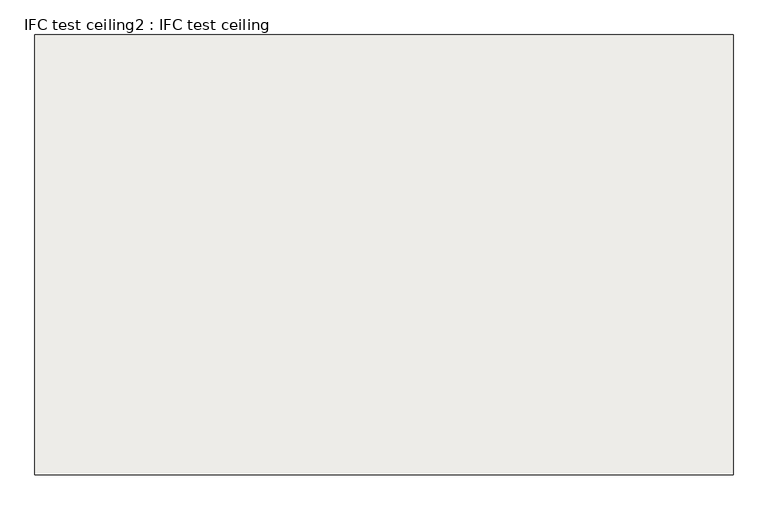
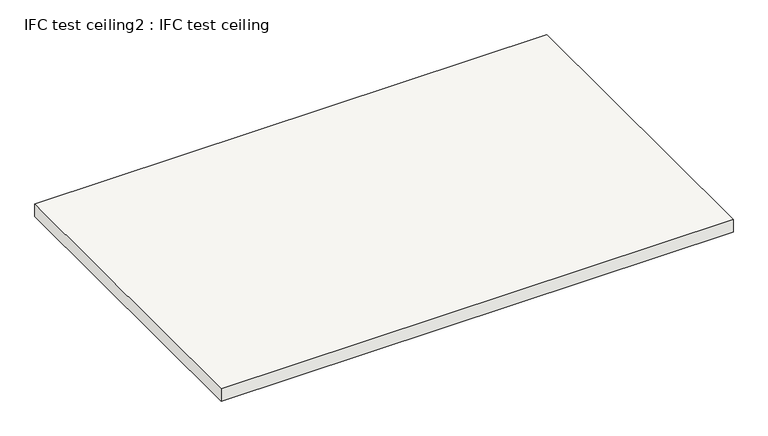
"""IFC4 building model written with IfcOpenShell, lengths in millimetres: covering geometry, IFC test ceiling2 : IFC test ceiling."""

import ifcopenshell
import ifcopenshell.guid

model = None  # the IFC model being written
_history = None  # IfcOwnerHistory: only IFC2X3 demands one
_inside = {}  # id of a spatial element -> (the spatial element, [elements in it])
_under = {}  # id of a project, library or spatial element -> (it, [spatial elements below it])
_declared = {}  # id of a project -> (the project, [libraries it declares])
_typed = {}  # id of a type object -> (the type object, [elements of that type])
_made_of = {}  # id of a material, layer set ... -> (it, [elements and type objects made of it])


def new_model(schema):
    """Start an empty IFC model of exactly this schema.

    Asked for "IFC4X3", IfcOpenShell would pick the latest addendum, in which some entities
    have other attributes; the version numbers below select the first issue.
    IFC2X3 requires an IfcOwnerHistory on every rooted entity: one is made here for all.
    """
    global model, _history
    if schema == "IFC4X3":
        model = ifcopenshell.file(schema_version=(4, 3, 0, 0))
    else:
        model = ifcopenshell.file(schema=schema)
    _inside.clear()
    _under.clear()
    _declared.clear()
    _typed.clear()
    _made_of.clear()
    _history = None
    if model.schema == "IFC2X3":
        org = make("IfcOrganization", Name="unknown")
        user = make(
            "IfcPersonAndOrganization",
            ThePerson=make("IfcPerson", FamilyName="unknown"),
            TheOrganization=org,
        )
        app = make(
            "IfcApplication",
            ApplicationDeveloper=org,
            Version="unknown",
            ApplicationFullName="unknown",
            ApplicationIdentifier="unknown",
        )
        _history = make(
            "IfcOwnerHistory",
            OwningUser=user,
            OwningApplication=app,
            ChangeAction="ADDED",
            CreationDate=0,
        )
    return model


def make(cls, **values):
    """One entity of the class cls with the attributes given. An attribute that is None is left unset."""
    return model.create_entity(
        cls, **{name: value for name, value in values.items() if value is not None}
    )


def rooted(cls, **values):
    """An entity with a GlobalId (a new one), such as an element, a storey or a relation."""
    return make(cls, GlobalId=ifcopenshell.guid.new(), OwnerHistory=_history, **values)


def si_unit(unit_type, name, prefix=None):
    """IfcSIUnit, for example si_unit("LENGTHUNIT", "METRE", prefix="MILLI")."""
    return make("IfcSIUnit", UnitType=unit_type, Prefix=prefix, Name=name)


def assignment(units):
    """IfcUnitAssignment: the units of a project."""
    return None if units is None else make("IfcUnitAssignment", Units=units)


def point(xyz):
    """IfcCartesianPoint."""
    return None if xyz is None else make("IfcCartesianPoint", Coordinates=xyz)


def direction(xyz):
    """IfcDirection."""
    return None if xyz is None else make("IfcDirection", DirectionRatios=xyz)


def frame(location, z_axis=None, x_axis=None):
    """IfcAxis2Placement3D, a coordinate frame: its origin and axes. An axis left out is left unset."""
    return make(
        "IfcAxis2Placement3D",
        Location=point(location),
        Axis=direction(z_axis),
        RefDirection=direction(x_axis),
    )


def origin():
    """The frame at (0, 0, 0) with its axes left unset."""
    return frame((0.0, 0.0, 0.0))


def origin_with_axes():
    """The frame at (0, 0, 0) with the z axis (0, 0, 1) and the x axis (1, 0, 0) written out."""
    return frame((0.0, 0.0, 0.0), z_axis=(0.0, 0.0, 1.0), x_axis=(1.0, 0.0, 0.0))


def place(relative_to, where):
    """IfcLocalPlacement: puts the frame where relative to a parent placement (None: the world)."""
    return make(
        "IfcLocalPlacement", PlacementRelTo=relative_to, RelativePlacement=where
    )


def context(
    kind, dimensions, precision=None, world=None, true_north=None, identifier=None
):
    """IfcGeometricRepresentationContext, for example the 3D "Model" context."""
    return make(
        "IfcGeometricRepresentationContext",
        ContextIdentifier=identifier,
        ContextType=kind,
        CoordinateSpaceDimension=dimensions,
        Precision=precision,
        WorldCoordinateSystem=world,
        TrueNorth=true_north,
    )


def project(units=None, contexts=None):
    """IfcProject with its units and contexts."""
    return rooted(
        "IfcProject",
        Name="project",
        RepresentationContexts=contexts,
        UnitsInContext=assignment(units),
    )


def spatial(cls, under=None, at=None, **own):
    """A site, building, storey or space (cls), placed at a placement, below another one or the project."""
    s = rooted(cls, ObjectPlacement=at, **own)
    if under is not None:
        _under.setdefault(under.id(), (under, []))[1].append(s)
    return s


def polyline(points):
    """IfcPolyline through the points."""
    return make("IfcPolyline", Points=[point(p) for p in points])


def outline(outer, holes=None, kind="AREA"):
    """IfcArbitraryClosedProfileDef: a profile drawn as a closed curve; with holes, ...WithVoids."""
    if holes is None:
        return make("IfcArbitraryClosedProfileDef", ProfileType=kind, OuterCurve=outer)
    return make(
        "IfcArbitraryProfileDefWithVoids",
        ProfileType=kind,
        OuterCurve=outer,
        InnerCurves=holes,
    )


def extrude(swept, where, along, depth):
    """IfcExtrudedAreaSolid: the profile swept, set in the frame where, extruded along a direction by depth."""
    return make(
        "IfcExtrudedAreaSolid",
        SweptArea=swept,
        Position=where,
        ExtrudedDirection=direction(along),
        Depth=depth,
    )


def shape(context_of_items, identifier, shape_type, items):
    """IfcShapeRepresentation: the items that make up one representation, for example the "Body"."""
    return make(
        "IfcShapeRepresentation",
        ContextOfItems=context_of_items,
        RepresentationIdentifier=identifier,
        RepresentationType=shape_type,
        Items=items,
    )


def source(mapping_origin, context_of_items, identifier, shape_type, items):
    """IfcRepresentationMap: a shape defined once, which mapped items show again and again."""
    return make(
        "IfcRepresentationMap",
        MappingOrigin=mapping_origin,
        MappedRepresentation=shape(context_of_items, identifier, shape_type, items),
    )


def transform(
    local_origin,
    x_axis=None,
    y_axis=None,
    z_axis=None,
    scale=None,
    scale2=None,
    scale3=None,
    uniform=True,
):
    """IfcCartesianTransformationOperator3D, or its non-uniform kind. x_axis, y_axis, z_axis: its Axis1, 2, 3."""
    if uniform:
        return make(
            "IfcCartesianTransformationOperator3D",
            Axis1=direction(x_axis),
            Axis2=direction(y_axis),
            LocalOrigin=point(local_origin),
            Scale=scale,
            Axis3=direction(z_axis),
        )
    return make(
        "IfcCartesianTransformationOperator3DnonUniform",
        Axis1=direction(x_axis),
        Axis2=direction(y_axis),
        LocalOrigin=point(local_origin),
        Scale=scale,
        Axis3=direction(z_axis),
        Scale2=scale2,
        Scale3=scale3,
    )


def mapped(mapping_source, mapping_target):
    """IfcMappedItem: shows the shape of a source again, moved by a transform."""
    return make(
        "IfcMappedItem", MappingSource=mapping_source, MappingTarget=mapping_target
    )


def made_of(thing, what):
    """Note that an element or type object is made of a material, layer set ...; save() writes the relation."""
    if what is not None:
        _made_of.setdefault(what.id(), (what, []))[1].append(thing)
    return thing


def element(
    cls,
    number,
    at=None,
    inside=None,
    cuts=None,
    type_object=None,
    material=None,
    context=None,
    identifier="Body",
    shape_type=None,
    held_by="IfcProductDefinitionShape",
    body=None,
    shapes=None,
    **own,
):
    """One element of the class cls, such as IfcWall. Its Tag is "e" and its number.

    at: its placement. inside: the storey or other place that contains it. cuts: it is an
    opening in that element (IfcRelVoidsElement). A single representation is given by context,
    identifier, shape_type and body (its items); several are given by shapes. held_by: the class
    of the entity that holds the representations. save() writes the other relations.
    """
    e = rooted(cls, Tag="e%d" % number, ObjectPlacement=at, **own)
    if body is not None:
        shapes = [shape(context, identifier, shape_type, body)]
    if shapes is not None:
        e.Representation = make(held_by, Representations=shapes)
    if inside is not None:
        _inside.setdefault(inside.id(), (inside, []))[1].append(e)
    if cuts is not None:
        rooted(
            "IfcRelVoidsElement", RelatingBuildingElement=cuts, RelatedOpeningElement=e
        )
    if type_object is not None:
        _typed.setdefault(type_object.id(), (type_object, []))[1].append(e)
    return made_of(e, material)


def aggregate(whole, parts):
    """IfcRelAggregates: a whole, such as a stair, and the parts it consists of."""
    return rooted("IfcRelAggregates", RelatingObject=whole, RelatedObjects=parts)


def save(model, path):
    """Write the relations noted so far, then the file.

    IfcRelAggregates (storeys below a building ...), IfcRelContainedInSpatialStructure (elements
    in a storey), IfcRelDefinesByType, IfcRelAssociatesMaterial and IfcRelDeclares: one each for
    every whole, place, type object, material and project.
    """
    for whole, parts in _under.values():
        aggregate(whole, parts)
    for where, things in _inside.values():
        rooted(
            "IfcRelContainedInSpatialStructure",
            RelatedElements=things,
            RelatingStructure=where,
        )
    for kind, things in _typed.values():
        rooted("IfcRelDefinesByType", RelatedObjects=things, RelatingType=kind)
    for what, things in _made_of.values():
        rooted("IfcRelAssociatesMaterial", RelatedObjects=things, RelatingMaterial=what)
    for by, libraries in _declared.values():
        rooted("IfcRelDeclares", RelatingContext=by, RelatedDefinitions=libraries)
    model.write(path)


def ifc_test_ceiling2_ifc_test_ceiling_13575725(model_context):
    return source(origin(), model_context, "Body", "SweptSolid", [
        extrude(outline(polyline([(-8718.3692456, -17301.9463816), (-18718.3692456, -17301.9463816), (-18718.3692456, -11001.9463816), (-8718.3692456, -11001.9463816), (-8718.3692456, -17301.9463816)])), origin_with_axes(), (0.0, 0.0, 1.0), 250.0),
    ])


if __name__ == "__main__":
    model = new_model("IFC4")
    model_context = context("Model", 3, world=origin())
    ifc_project = project(units=[si_unit("LENGTHUNIT", "METRE", prefix="MILLI")], contexts=[model_context])
    site = spatial("IfcSite", under=ifc_project)
    building = spatial("IfcBuilding", under=site)
    placement = place(None, origin())
    ifc_test_ceiling2_ifc_test_ceiling_shape = ifc_test_ceiling2_ifc_test_ceiling_13575725(model_context)
    element("IfcCovering", 1, ObjectType="IFC test ceiling2 : IFC test ceiling", at=placement, inside=building, context=model_context, shape_type="MappedRepresentation", body=[
        mapped(ifc_test_ceiling2_ifc_test_ceiling_shape, transform((0.0, 0.0, 0.0), x_axis=(1.0, 0.0, 0.0), y_axis=(0.0, 1.0, 0.0), z_axis=(0.0, 0.0, 1.0))),
    ])
    save(model, "model.ifc")
